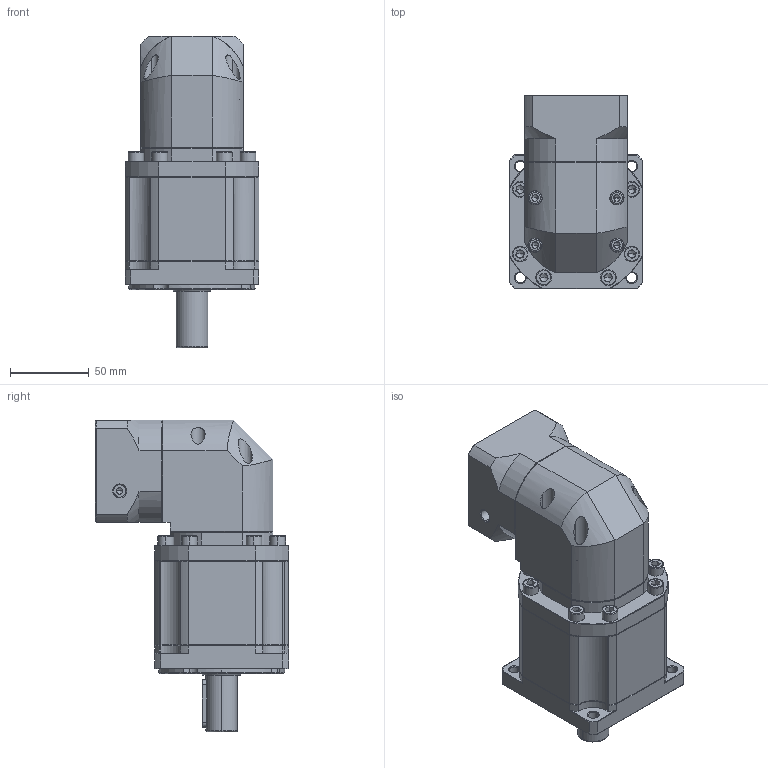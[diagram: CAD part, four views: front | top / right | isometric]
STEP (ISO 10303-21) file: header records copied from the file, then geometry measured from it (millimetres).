
FILE_DESCRIPTION (( 'STEP AP214' ), '1' );
FILE_NAME ('ZBR090-D20-L3-P2-14-60-75-M5.step', '2023-08-19T03:56:47', ( '' ), ( '' ), 'SwSTEP 2.0', 'SolidWorks 2016', '' );
FILE_SCHEMA (( 'AUTOMOTIVE_DESIGN' ));
Length unit declared in the file: millimetre
Products named in the file (1): ZBR090-D20-L3-P2-14-60-75-M5
Bounding box: 85 x 122.7 x 198 mm (x, y, z)
Volume: 935653.3 mm3; surface area: 106654.9 mm2
Topology: 5 solids, 5 shells, 2438 faces, 6484 edges, 4148 vertices
Faces by surface type: plane 1178, cylinder 445, bspline 426, cone 369, torus 20
Entity records: 129755 total; most frequent: CARTESIAN_POINT 45618, ORIENTED_EDGE 12876, DIRECTION 10376, EDGE_CURVE 6438, VERTEX_POINT 4148, VECTOR 4034, LINE 4034, AXIS2_PLACEMENT_3D 3171
